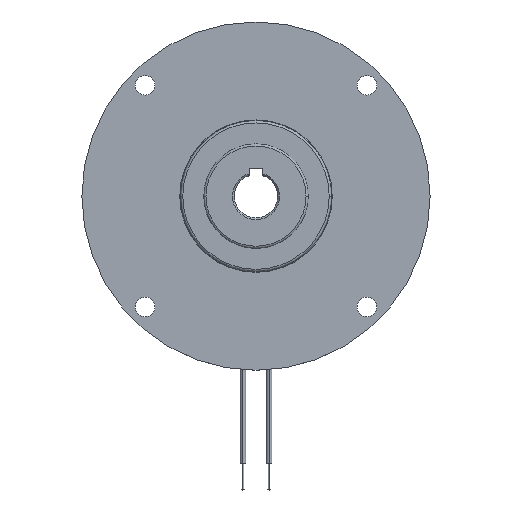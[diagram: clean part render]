
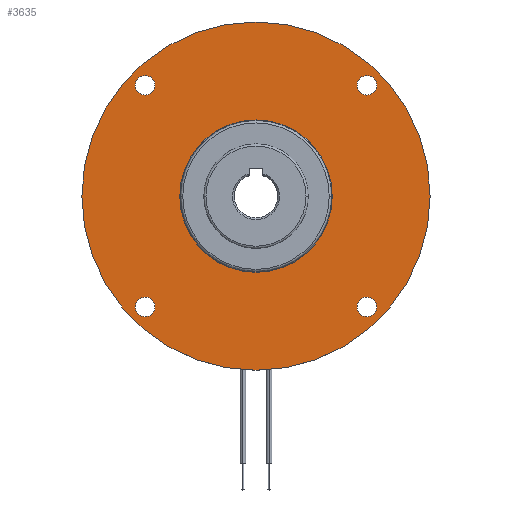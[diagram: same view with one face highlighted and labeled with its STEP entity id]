
A CAD part, top view. The second image highlights one B-rep face of the part: STEP entity #3635.
In plain terms, the highlighted planar face has unit normal (0, 0, 1).
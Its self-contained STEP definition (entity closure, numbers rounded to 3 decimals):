
#89 = AXIS2_PLACEMENT_3D ( 'NONE', #8296, #6761, #4981 ) ;
#254 = ORIENTED_EDGE ( 'NONE', *, *, #9175, .T. ) ;
#298 = AXIS2_PLACEMENT_3D ( 'NONE', #612, #7509, #2114 ) ;
#365 = ORIENTED_EDGE ( 'NONE', *, *, #442, .F. ) ;
#366 = ORIENTED_EDGE ( 'NONE', *, *, #8633, .T. ) ;
#372 = AXIS2_PLACEMENT_3D ( 'NONE', #927, #8556, #3845 ) ;
#442 = EDGE_CURVE ( 'NONE', #3222, #3778, #9072, .T. ) ;
#543 = CARTESIAN_POINT ( 'NONE',  ( 25.456, 25.456, 0. ) ) ;
#562 = FACE_BOUND ( 'NONE', #3043, .T. ) ;
#612 = CARTESIAN_POINT ( 'NONE',  ( 25.456, -25.456, 0. ) ) ;
#927 = CARTESIAN_POINT ( 'NONE',  ( 0., 40., 0. ) ) ;
#1107 = ORIENTED_EDGE ( 'NONE', *, *, #5447, .T. ) ;
#1269 = EDGE_CURVE ( 'NONE', #9038, #7162, #8809, .T. ) ;
#1286 = CARTESIAN_POINT ( 'NONE',  ( -27.706, -25.456, 0. ) ) ;
#1287 = DIRECTION ( 'NONE',  ( 0., 0., -1. ) ) ;
#1319 = ORIENTED_EDGE ( 'NONE', *, *, #7080, .T. ) ;
#1340 = CIRCLE ( 'NONE', #9371, 40. ) ;
#1388 = FACE_BOUND ( 'NONE', #8368, .T. ) ;
#1694 = EDGE_LOOP ( 'NONE', ( #3417, #254 ) ) ;
#1755 = AXIS2_PLACEMENT_3D ( 'NONE', #8715, #4977, #4050 ) ;
#1778 = CIRCLE ( 'NONE', #298, 2.25 ) ;
#1925 = CARTESIAN_POINT ( 'NONE',  ( 27.706, 25.456, 0. ) ) ;
#2114 = DIRECTION ( 'NONE',  ( -1., 0., 0. ) ) ;
#2204 = EDGE_CURVE ( 'NONE', #7162, #9038, #9647, .T. ) ;
#2233 = CIRCLE ( 'NONE', #5163, 2.25 ) ;
#2241 = CIRCLE ( 'NONE', #1755, 2.25 ) ;
#2337 = DIRECTION ( 'NONE',  ( 0., 0., -1. ) ) ;
#2407 = CIRCLE ( 'NONE', #7495, 2.25 ) ;
#2609 = DIRECTION ( 'NONE',  ( 0., 0., -1. ) ) ;
#2766 = AXIS2_PLACEMENT_3D ( 'NONE', #5539, #4725, #7047 ) ;
#2873 = FACE_BOUND ( 'NONE', #8077, .T. ) ;
#3043 = EDGE_LOOP ( 'NONE', ( #1107, #366 ) ) ;
#3222 = VERTEX_POINT ( 'NONE', #4091 ) ;
#3417 = ORIENTED_EDGE ( 'NONE', *, *, #7173, .T. ) ;
#3459 = DIRECTION ( 'NONE',  ( -1., 0., 0. ) ) ;
#3483 = DIRECTION ( 'NONE',  ( 0., 0., -1. ) ) ;
#3517 = EDGE_CURVE ( 'NONE', #5947, #5295, #4458, .T. ) ;
#3635 = ADVANCED_FACE ( 'NONE', ( #562, #9913, #2873, #6930, #8411, #1388 ), #9050, .F. ) ;
#3676 = DIRECTION ( 'NONE',  ( 0., 0., -1. ) ) ;
#3778 = VERTEX_POINT ( 'NONE', #8833 ) ;
#3845 = DIRECTION ( 'NONE',  ( -1., 0., 0. ) ) ;
#3882 = AXIS2_PLACEMENT_3D ( 'NONE', #5084, #2609, #3459 ) ;
#3929 = EDGE_CURVE ( 'NONE', #3778, #3222, #1340, .T. ) ;
#4050 = DIRECTION ( 'NONE',  ( -1., 0., 0. ) ) ;
#4091 = CARTESIAN_POINT ( 'NONE',  ( -40., 0., 0. ) ) ;
#4315 = AXIS2_PLACEMENT_3D ( 'NONE', #5825, #8958, #9013 ) ;
#4322 = VERTEX_POINT ( 'NONE', #7502 ) ;
#4403 = DIRECTION ( 'NONE',  ( -1., 0., 0. ) ) ;
#4458 = CIRCLE ( 'NONE', #8083, 2.25 ) ;
#4607 = ORIENTED_EDGE ( 'NONE', *, *, #2204, .T. ) ;
#4674 = AXIS2_PLACEMENT_3D ( 'NONE', #5113, #5765, #7372 ) ;
#4725 = DIRECTION ( 'NONE',  ( 0., 0., -1. ) ) ;
#4726 = CARTESIAN_POINT ( 'NONE',  ( -17.5, 0., 0. ) ) ;
#4977 = DIRECTION ( 'NONE',  ( 0., 0., -1. ) ) ;
#4981 = DIRECTION ( 'NONE',  ( -1., 0., 0. ) ) ;
#5084 = CARTESIAN_POINT ( 'NONE',  ( 0., 0., 0. ) ) ;
#5113 = CARTESIAN_POINT ( 'NONE',  ( 25.456, 25.456, 0. ) ) ;
#5163 = AXIS2_PLACEMENT_3D ( 'NONE', #543, #3676, #4403 ) ;
#5219 = ORIENTED_EDGE ( 'NONE', *, *, #3929, .F. ) ;
#5247 = ORIENTED_EDGE ( 'NONE', *, *, #6957, .T. ) ;
#5295 = VERTEX_POINT ( 'NONE', #1286 ) ;
#5306 = CARTESIAN_POINT ( 'NONE',  ( 0., 0., 0. ) ) ;
#5320 = CARTESIAN_POINT ( 'NONE',  ( -25.456, -25.456, 0. ) ) ;
#5360 = CIRCLE ( 'NONE', #2766, 2.25 ) ;
#5400 = CARTESIAN_POINT ( 'NONE',  ( -23.206, 25.456, 0. ) ) ;
#5447 = EDGE_CURVE ( 'NONE', #8932, #8151, #6821, .T. ) ;
#5539 = CARTESIAN_POINT ( 'NONE',  ( -25.456, 25.456, 0. ) ) ;
#5765 = DIRECTION ( 'NONE',  ( 0., 0., -1. ) ) ;
#5793 = EDGE_LOOP ( 'NONE', ( #8378, #1319 ) ) ;
#5825 = CARTESIAN_POINT ( 'NONE',  ( 0., 0., 0. ) ) ;
#5947 = VERTEX_POINT ( 'NONE', #9153 ) ;
#6440 = VERTEX_POINT ( 'NONE', #5400 ) ;
#6668 = CIRCLE ( 'NONE', #89, 2.25 ) ;
#6761 = DIRECTION ( 'NONE',  ( 0., 0., -1. ) ) ;
#6821 = CIRCLE ( 'NONE', #4674, 2.25 ) ;
#6930 = FACE_BOUND ( 'NONE', #5793, .T. ) ;
#6957 = EDGE_CURVE ( 'NONE', #5295, #5947, #6668, .T. ) ;
#7047 = DIRECTION ( 'NONE',  ( -1., 0., 0. ) ) ;
#7080 = EDGE_CURVE ( 'NONE', #6440, #8625, #2407, .T. ) ;
#7162 = VERTEX_POINT ( 'NONE', #7409 ) ;
#7173 = EDGE_CURVE ( 'NONE', #4322, #7265, #2241, .T. ) ;
#7265 = VERTEX_POINT ( 'NONE', #7507 ) ;
#7353 = AXIS2_PLACEMENT_3D ( 'NONE', #9464, #2337, #8681 ) ;
#7364 = DIRECTION ( 'NONE',  ( -1., 0., 0. ) ) ;
#7372 = DIRECTION ( 'NONE',  ( -1., 0., 0. ) ) ;
#7409 = CARTESIAN_POINT ( 'NONE',  ( 17.5, 0., 0. ) ) ;
#7495 = AXIS2_PLACEMENT_3D ( 'NONE', #8115, #3483, #7364 ) ;
#7502 = CARTESIAN_POINT ( 'NONE',  ( 23.206, -25.456, 0. ) ) ;
#7507 = CARTESIAN_POINT ( 'NONE',  ( 27.706, -25.456, 0. ) ) ;
#7509 = DIRECTION ( 'NONE',  ( 0., 0., -1. ) ) ;
#7976 = EDGE_CURVE ( 'NONE', #8625, #6440, #5360, .T. ) ;
#8077 = EDGE_LOOP ( 'NONE', ( #5247, #9592 ) ) ;
#8083 = AXIS2_PLACEMENT_3D ( 'NONE', #5320, #9147, #9864 ) ;
#8115 = CARTESIAN_POINT ( 'NONE',  ( -25.456, 25.456, 0. ) ) ;
#8151 = VERTEX_POINT ( 'NONE', #1925 ) ;
#8296 = CARTESIAN_POINT ( 'NONE',  ( -25.456, -25.456, 0. ) ) ;
#8368 = EDGE_LOOP ( 'NONE', ( #10113, #4607 ) ) ;
#8378 = ORIENTED_EDGE ( 'NONE', *, *, #7976, .T. ) ;
#8399 = DIRECTION ( 'NONE',  ( -1., 0., 0. ) ) ;
#8411 = FACE_OUTER_BOUND ( 'NONE', #8599, .T. ) ;
#8556 = DIRECTION ( 'NONE',  ( 0., 0., -1. ) ) ;
#8599 = EDGE_LOOP ( 'NONE', ( #365, #5219 ) ) ;
#8625 = VERTEX_POINT ( 'NONE', #8985 ) ;
#8633 = EDGE_CURVE ( 'NONE', #8151, #8932, #2233, .T. ) ;
#8681 = DIRECTION ( 'NONE',  ( -1., 0., 0. ) ) ;
#8715 = CARTESIAN_POINT ( 'NONE',  ( 25.456, -25.456, 0. ) ) ;
#8809 = CIRCLE ( 'NONE', #7353, 17.5 ) ;
#8833 = CARTESIAN_POINT ( 'NONE',  ( 40., 0., 0. ) ) ;
#8932 = VERTEX_POINT ( 'NONE', #10075 ) ;
#8958 = DIRECTION ( 'NONE',  ( 0., 0., -1. ) ) ;
#8985 = CARTESIAN_POINT ( 'NONE',  ( -27.706, 25.456, 0. ) ) ;
#9013 = DIRECTION ( 'NONE',  ( -1., 0., 0. ) ) ;
#9038 = VERTEX_POINT ( 'NONE', #4726 ) ;
#9050 = PLANE ( 'NONE',  #372 ) ;
#9072 = CIRCLE ( 'NONE', #4315, 40. ) ;
#9147 = DIRECTION ( 'NONE',  ( 0., 0., -1. ) ) ;
#9153 = CARTESIAN_POINT ( 'NONE',  ( -23.206, -25.456, 0. ) ) ;
#9175 = EDGE_CURVE ( 'NONE', #7265, #4322, #1778, .T. ) ;
#9371 = AXIS2_PLACEMENT_3D ( 'NONE', #5306, #1287, #8399 ) ;
#9464 = CARTESIAN_POINT ( 'NONE',  ( 0., 0., 0. ) ) ;
#9592 = ORIENTED_EDGE ( 'NONE', *, *, #3517, .T. ) ;
#9647 = CIRCLE ( 'NONE', #3882, 17.5 ) ;
#9864 = DIRECTION ( 'NONE',  ( -1., 0., 0. ) ) ;
#9913 = FACE_BOUND ( 'NONE', #1694, .T. ) ;
#10075 = CARTESIAN_POINT ( 'NONE',  ( 23.206, 25.456, 0. ) ) ;
#10113 = ORIENTED_EDGE ( 'NONE', *, *, #1269, .T. ) ;
